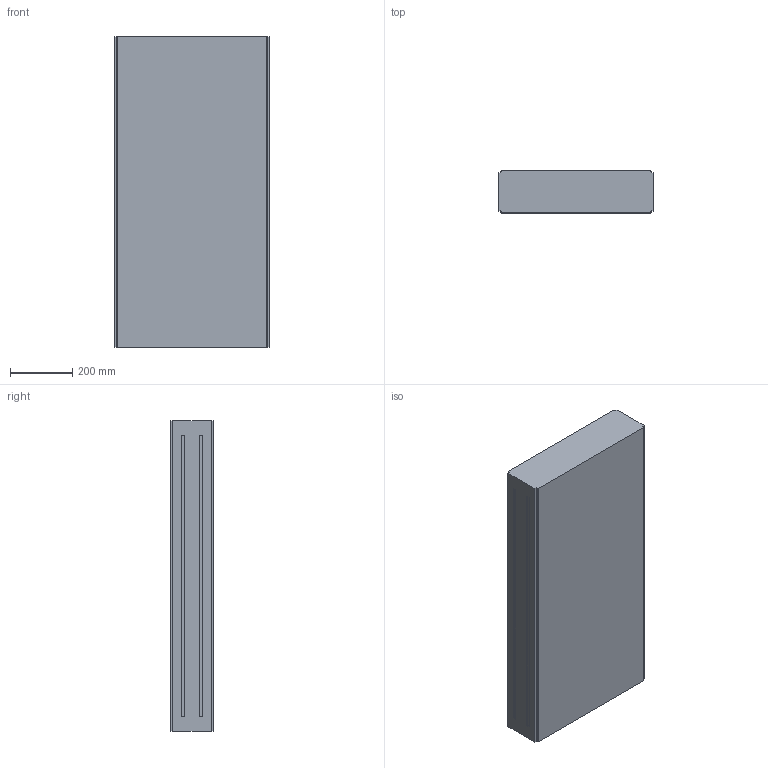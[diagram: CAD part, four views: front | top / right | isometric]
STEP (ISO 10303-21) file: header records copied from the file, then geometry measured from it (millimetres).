
FILE_DESCRIPTION (( 'STEP AP214' ), '1' );
FILE_NAME ('FS-MTC2-150-INOX Baansectie (niet gebruiken).500.STEP', '2017-02-08T12:43:28', ( '' ), ( '' ), 'SwSTEP 2.0', 'SolidWorks 2016', '' );
FILE_SCHEMA (( 'AUTOMOTIVE_DESIGN' ));
Length unit declared in the file: millimetre
Products named in the file (1): FS-MTC2-150-INOX Baansectie (niet gebruiken).500
Bounding box: 499 x 136.5 x 1000 mm (x, y, z)
Volume: 67815222.5 mm3; surface area: 1425140.6 mm2
Topology: 1 solids, 1 shells, 42 faces, 108 edges, 72 vertices
Faces by surface type: plane 42
Entity records: 1286 total; most frequent: CARTESIAN_POINT 223, ORIENTED_EDGE 216, DIRECTION 194, VECTOR 108, EDGE_CURVE 108, LINE 108, VERTEX_POINT 72, EDGE_LOOP 46
